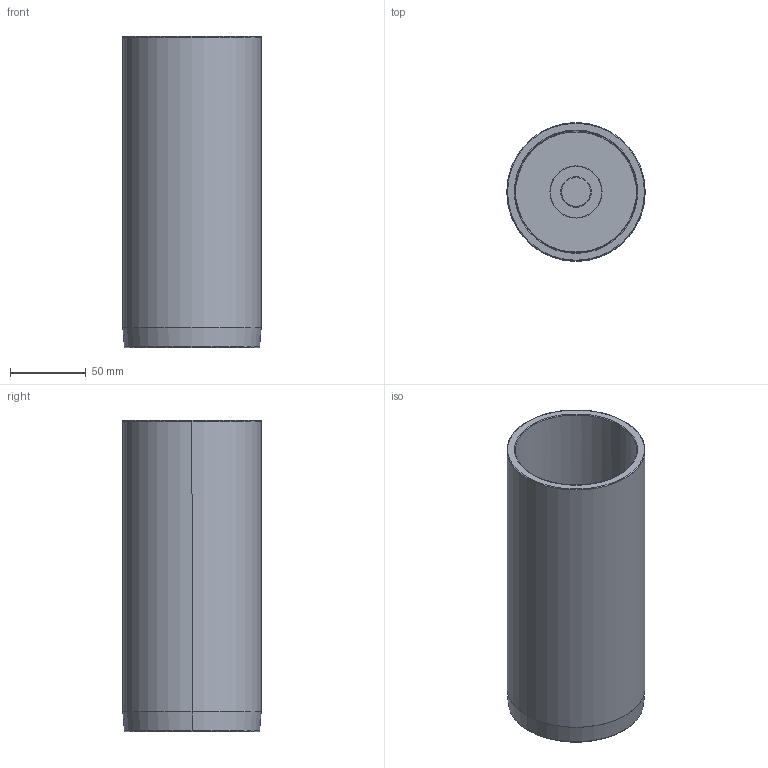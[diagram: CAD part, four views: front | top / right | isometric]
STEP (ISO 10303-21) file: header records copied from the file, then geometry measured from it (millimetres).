
FILE_DESCRIPTION((''),'2;1');
FILE_NAME('C12_080_205.stp','2009-01-29T09:37:51',(''),(''),'Mechanical Desktop 2009','Mechanical Desktop 2009',', , ');
FILE_SCHEMA(('CONFIG_CONTROL_DESIGN'));
Length unit declared in the file: millimetre
Products named in the file (2): Product; blmdl1
Assembly tree (1 placements, depth 2):
  Product
    blmdl1
Bounding box: 91.25 x 91.25 x 205 mm (x, y, z)
Volume: 328509.7 mm3; surface area: 134850.8 mm2
Topology: 5 solids, 5 shells, 79 faces, 200 edges, 134 vertices
Faces by surface type: cylinder 34, plane 29, torus 10, cone 6
Entity records: 2585 total; most frequent: DIRECTION 480, CARTESIAN_POINT 435, ORIENTED_EDGE 400, AXIS2_PLACEMENT_3D 203, EDGE_CURVE 200, VERTEX_POINT 134, CIRCLE 122, EDGE_LOOP 92
